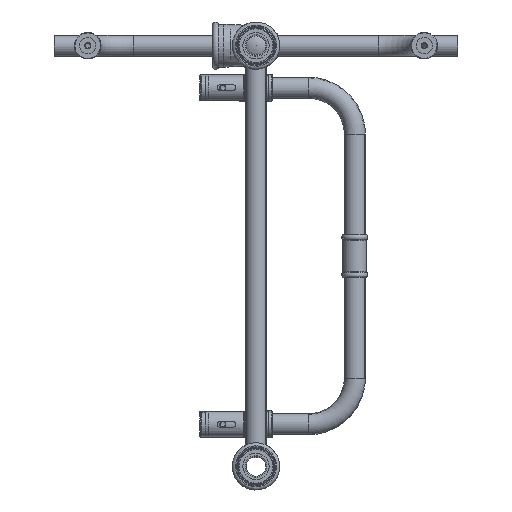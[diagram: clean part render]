
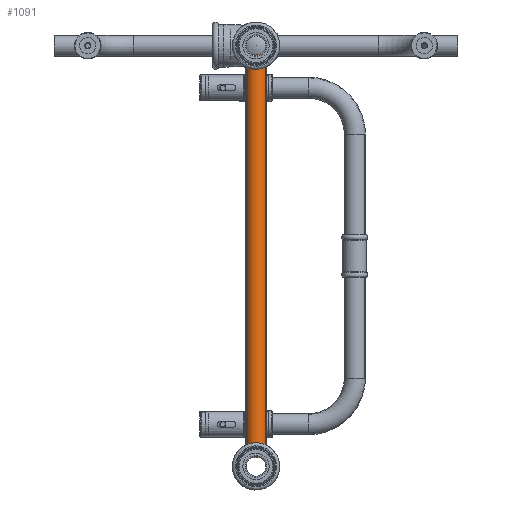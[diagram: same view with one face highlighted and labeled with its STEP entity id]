
A CAD part, front view. The second image highlights one B-rep face of the part: STEP entity #1091.
In plain terms, the highlighted cylindrical face has radius 10 mm (diameter 20 mm), a full revolution.
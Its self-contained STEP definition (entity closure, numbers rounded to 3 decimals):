
#1091 = ADVANCED_FACE( '', ( #2328, #2329 ), #2330, .T. );
#2328 = FACE_OUTER_BOUND( '', #4337, .T. );
#2329 = FACE_OUTER_BOUND( '', #4338, .T. );
#2330 = CYLINDRICAL_SURFACE( '', #4339, 10. );
#4337 = EDGE_LOOP( '', ( #6419 ) );
#4338 = EDGE_LOOP( '', ( #6420 ) );
#4339 = AXIS2_PLACEMENT_3D( '', #6421, #6422, #6423 );
#6419 = ORIENTED_EDGE( '', *, *, #8412, .T. );
#6420 = ORIENTED_EDGE( '', *, *, #8637, .F. );
#6421 = CARTESIAN_POINT( '', ( 192., 0., 0. ) );
#6422 = DIRECTION( '', ( 1., 0., 0. ) );
#6423 = DIRECTION( '', ( 0., 0., 1. ) );
#8412 = EDGE_CURVE( '', #9301, #9301, #9302, .T. );
#8637 = EDGE_CURVE( '', #9676, #9676, #9677, .T. );
#9301 = VERTEX_POINT( '', #11437 );
#9302 = CIRCLE( '', #11438, 10. );
#9676 = VERTEX_POINT( '', #15180 );
#9677 = CIRCLE( '', #15181, 10. );
#11437 = CARTESIAN_POINT( '', ( 192., 10., 0. ) );
#11438 = AXIS2_PLACEMENT_3D( '', #21202, #21203, #21204 );
#15180 = CARTESIAN_POINT( '', ( -192., 10., 0. ) );
#15181 = AXIS2_PLACEMENT_3D( '', #21544, #21545, #21546 );
#21202 = CARTESIAN_POINT( '', ( 192., 0., 0. ) );
#21203 = DIRECTION( '', ( -1., 0., 0. ) );
#21204 = DIRECTION( '', ( 0., 1., 0. ) );
#21544 = CARTESIAN_POINT( '', ( -192., 0., 0. ) );
#21545 = DIRECTION( '', ( -1., 0., 0. ) );
#21546 = DIRECTION( '', ( 0., 1., 0. ) );
